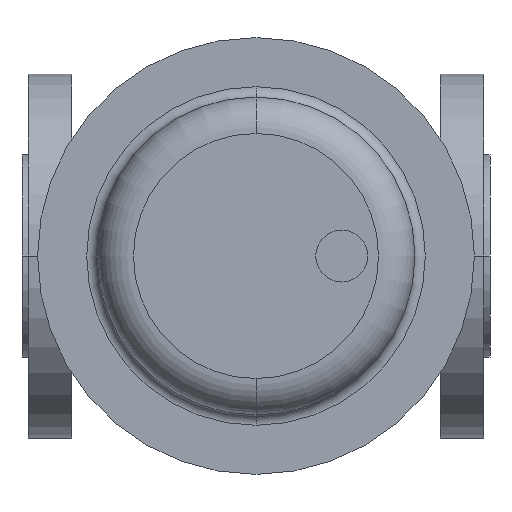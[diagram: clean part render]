
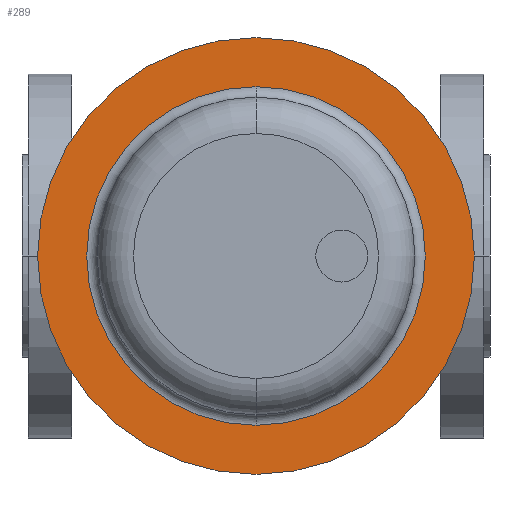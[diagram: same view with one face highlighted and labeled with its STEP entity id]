
A CAD part, front view. The second image highlights one B-rep face of the part: STEP entity #289.
In plain terms, the highlighted planar face has unit normal (0, -1, 0).
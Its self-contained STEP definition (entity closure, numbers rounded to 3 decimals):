
#289 = ADVANCED_FACE( '', ( #671, #672 ), #673, .T. );
#671 = FACE_OUTER_BOUND( '', #1070, .T. );
#672 = FACE_BOUND( '', #1071, .T. );
#673 = PLANE( '', #1072 );
#1070 = EDGE_LOOP( '', ( #2389, #2390 ) );
#1071 = EDGE_LOOP( '', ( #2391, #2392, #2393 ) );
#1072 = AXIS2_PLACEMENT_3D( '', #2394, #2395, #2396 );
#2389 = ORIENTED_EDGE( '', *, *, #2868, .F. );
#2390 = ORIENTED_EDGE( '', *, *, #2897, .F. );
#2391 = ORIENTED_EDGE( '', *, *, #2895, .T. );
#2392 = ORIENTED_EDGE( '', *, *, #2875, .T. );
#2393 = ORIENTED_EDGE( '', *, *, #2896, .T. );
#2394 = CARTESIAN_POINT( '', ( 164.563, -404.5, 0. ) );
#2395 = DIRECTION( '', ( 0., -1., 0. ) );
#2396 = DIRECTION( '', ( -1., 0., 0. ) );
#2868 = EDGE_CURVE( '', #3542, #3545, #3546, .T. );
#2875 = EDGE_CURVE( '', #3551, #3557, #3559, .T. );
#2895 = EDGE_CURVE( '', #3591, #3551, #3592, .T. );
#2896 = EDGE_CURVE( '', #3557, #3591, #3593, .T. );
#2897 = EDGE_CURVE( '', #3545, #3542, #3594, .T. );
#3542 = VERTEX_POINT( '', #4779 );
#3545 = VERTEX_POINT( '', #4783 );
#3546 = CIRCLE( '', #4784, 84. );
#3551 = VERTEX_POINT( '', #4790 );
#3557 = VERTEX_POINT( '', #4796 );
#3559 = CIRCLE( '', #4798, 65.125 );
#3591 = VERTEX_POINT( '', #4834 );
#3592 = CIRCLE( '', #4835, 65.125 );
#3593 = CIRCLE( '', #4836, 65.125 );
#3594 = CIRCLE( '', #4837, 84. );
#4779 = CARTESIAN_POINT( '', ( 174., -404.5, 0. ) );
#4783 = CARTESIAN_POINT( '', ( 6., -404.5, 0. ) );
#4784 = AXIS2_PLACEMENT_3D( '', #5711, #5712, #5713 );
#4790 = CARTESIAN_POINT( '', ( 90., -404.5, -65.125 ) );
#4796 = CARTESIAN_POINT( '', ( 90., -404.5, 65.125 ) );
#4798 = AXIS2_PLACEMENT_3D( '', #5730, #5731, #5732 );
#4834 = CARTESIAN_POINT( '', ( 155.125, -404.5, 0. ) );
#4835 = AXIS2_PLACEMENT_3D( '', #5782, #5783, #5784 );
#4836 = AXIS2_PLACEMENT_3D( '', #5785, #5786, #5787 );
#4837 = AXIS2_PLACEMENT_3D( '', #5788, #5789, #5790 );
#5711 = CARTESIAN_POINT( '', ( 90., -404.5, 0. ) );
#5712 = DIRECTION( '', ( 0., 1., 0. ) );
#5713 = DIRECTION( '', ( 1., 0., 0. ) );
#5730 = CARTESIAN_POINT( '', ( 90., -404.5, 0. ) );
#5731 = DIRECTION( '', ( 0., 1., 0. ) );
#5732 = DIRECTION( '', ( 1., 0., 0. ) );
#5782 = CARTESIAN_POINT( '', ( 90., -404.5, 0. ) );
#5783 = DIRECTION( '', ( 0., 1., 0. ) );
#5784 = DIRECTION( '', ( 1., 0., 0. ) );
#5785 = CARTESIAN_POINT( '', ( 90., -404.5, 0. ) );
#5786 = DIRECTION( '', ( 0., 1., 0. ) );
#5787 = DIRECTION( '', ( 1., 0., 0. ) );
#5788 = CARTESIAN_POINT( '', ( 90., -404.5, 0. ) );
#5789 = DIRECTION( '', ( 0., 1., 0. ) );
#5790 = DIRECTION( '', ( 1., 0., 0. ) );
